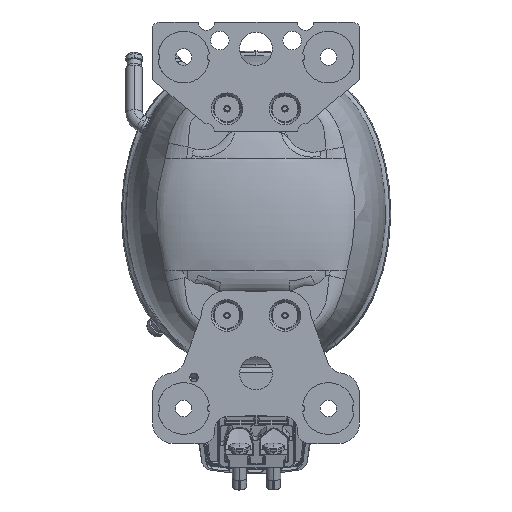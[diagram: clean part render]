
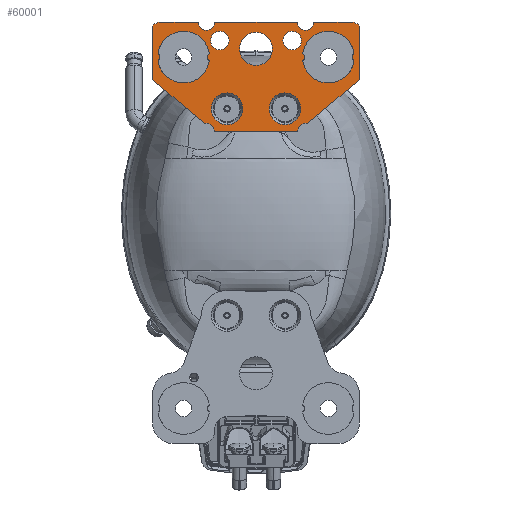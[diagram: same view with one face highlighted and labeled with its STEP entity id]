
A CAD part, front view. The second image highlights one B-rep face of the part: STEP entity #60001.
In plain terms, the highlighted planar face has unit normal (0, -1, 0) as drawn and (0, 0, -1) by its records, which use the part's own axes.
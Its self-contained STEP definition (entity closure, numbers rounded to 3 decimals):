
#59096=CARTESIAN_POINT('',(25.,-14.,0.));
#59097=DIRECTION('',(0.,0.,1.));
#59098=DIRECTION('',(-1.,0.,0.));
#59099=AXIS2_PLACEMENT_3D('',#59096,#59097,#59098);
#59101=CARTESIAN_POINT('',(25.,-14.,0.));
#59102=DIRECTION('',(0.,0.,1.));
#59103=DIRECTION('',(1.,0.,0.));
#59104=AXIS2_PLACEMENT_3D('',#59101,#59102,#59103);
#59106=CARTESIAN_POINT('',(25.,14.,0.));
#59107=DIRECTION('',(0.,0.,1.));
#59108=DIRECTION('',(-1.,0.,0.));
#59109=AXIS2_PLACEMENT_3D('',#59106,#59107,#59108);
#59111=CARTESIAN_POINT('',(25.,14.,0.));
#59112=DIRECTION('',(0.,0.,1.));
#59113=DIRECTION('',(1.,0.,0.));
#59114=AXIS2_PLACEMENT_3D('',#59111,#59112,#59113);
#59116=CARTESIAN_POINT('',(0.,35.,0.));
#59117=DIRECTION('',(0.,0.,-1.));
#59118=DIRECTION('',(1.,0.,0.));
#59119=AXIS2_PLACEMENT_3D('',#59116,#59117,#59118);
#59121=CARTESIAN_POINT('',(0.,35.,0.));
#59122=DIRECTION('',(0.,0.,-1.));
#59123=DIRECTION('',(-1.,0.,0.));
#59124=AXIS2_PLACEMENT_3D('',#59121,#59122,#59123);
#59126=CARTESIAN_POINT('',(0.,-35.,0.));
#59127=DIRECTION('',(0.,0.,-1.));
#59128=DIRECTION('',(1.,0.,0.));
#59129=AXIS2_PLACEMENT_3D('',#59126,#59127,#59128);
#59131=CARTESIAN_POINT('',(0.,-35.,0.));
#59132=DIRECTION('',(0.,0.,-1.));
#59133=DIRECTION('',(-1.,0.,0.));
#59134=AXIS2_PLACEMENT_3D('',#59131,#59132,#59133);
#59136=CARTESIAN_POINT('',(-8.,17.5,0.));
#59137=DIRECTION('',(0.,0.,-1.));
#59138=DIRECTION('',(1.,0.,0.));
#59139=AXIS2_PLACEMENT_3D('',#59136,#59137,#59138);
#59141=CARTESIAN_POINT('',(-8.,17.5,0.));
#59142=DIRECTION('',(0.,0.,-1.));
#59143=DIRECTION('',(-1.,0.,0.));
#59144=AXIS2_PLACEMENT_3D('',#59141,#59142,#59143);
#59146=CARTESIAN_POINT('',(-8.,-17.5,0.));
#59147=DIRECTION('',(0.,0.,-1.));
#59148=DIRECTION('',(1.,0.,0.));
#59149=AXIS2_PLACEMENT_3D('',#59146,#59147,#59148);
#59151=CARTESIAN_POINT('',(-8.,-17.5,0.));
#59152=DIRECTION('',(0.,0.,-1.));
#59153=DIRECTION('',(-1.,0.,0.));
#59154=AXIS2_PLACEMENT_3D('',#59151,#59152,#59153);
#59156=CARTESIAN_POINT('',(-4.,0.,0.));
#59157=DIRECTION('',(0.,0.,-1.));
#59158=DIRECTION('',(1.,0.,0.));
#59159=AXIS2_PLACEMENT_3D('',#59156,#59157,#59158);
#59161=CARTESIAN_POINT('',(-4.,0.,0.));
#59162=DIRECTION('',(0.,0.,-1.));
#59163=DIRECTION('',(-1.,0.,0.));
#59164=AXIS2_PLACEMENT_3D('',#59161,#59162,#59163);
#59166=CARTESIAN_POINT('',(-12.,46.,0.));
#59167=DIRECTION('',(0.,0.,1.));
#59168=DIRECTION('',(-0.6,0.8,0.));
#59169=AXIS2_PLACEMENT_3D('',#59166,#59167,#59168);
#59171=DIRECTION('',(0.,-1.,0.));
#59172=VECTOR('',#59171,18.);
#59173=CARTESIAN_POINT('',(-17.,46.,0.));
#59174=LINE('',#59173,#59172);
#59175=CARTESIAN_POINT('',(-17.,24.,0.));
#59176=DIRECTION('',(0.,0.,-1.));
#59177=DIRECTION('',(0.,1.,0.));
#59178=AXIS2_PLACEMENT_3D('',#59175,#59176,#59177);
#59180=DIRECTION('',(0.,-1.,0.));
#59181=VECTOR('',#59180,40.);
#59182=CARTESIAN_POINT('',(-17.,20.,0.));
#59183=LINE('',#59182,#59181);
#59184=CARTESIAN_POINT('',(-17.,-24.,0.));
#59185=DIRECTION('',(0.,0.,-1.));
#59186=DIRECTION('',(0.,1.,0.));
#59187=AXIS2_PLACEMENT_3D('',#59184,#59185,#59186);
#59189=DIRECTION('',(0.,-1.,0.));
#59190=VECTOR('',#59189,18.);
#59191=CARTESIAN_POINT('',(-17.,-28.,0.));
#59192=LINE('',#59191,#59190);
#59193=CARTESIAN_POINT('',(-12.,-46.,0.));
#59194=DIRECTION('',(0.,0.,1.));
#59195=DIRECTION('',(-1.,0.,0.));
#59196=AXIS2_PLACEMENT_3D('',#59193,#59194,#59195);
#59198=DIRECTION('',(1.,0.,0.));
#59199=VECTOR('',#59198,26.);
#59200=CARTESIAN_POINT('',(-15.,-50.,0.));
#59201=LINE('',#59200,#59199);
#59202=DIRECTION('',(0.643,0.766,0.));
#59203=VECTOR('',#59202,32.766);
#59204=CARTESIAN_POINT('',(11.,-50.,0.));
#59205=LINE('',#59204,#59203);
#59206=CARTESIAN_POINT('',(36.,-24.2,0.));
#59207=DIRECTION('',(0.,0.,-1.));
#59208=DIRECTION('',(-0.985,-0.175,0.));
#59209=AXIS2_PLACEMENT_3D('',#59206,#59207,#59208);
#59211=DIRECTION('',(0.,1.,0.));
#59212=VECTOR('',#59211,40.4);
#59213=CARTESIAN_POINT('',(36.,-20.2,0.));
#59214=LINE('',#59213,#59212);
#59215=CARTESIAN_POINT('',(36.,24.2,0.));
#59216=DIRECTION('',(0.,0.,-1.));
#59217=DIRECTION('',(0.,-1.,0.));
#59218=AXIS2_PLACEMENT_3D('',#59215,#59216,#59217);
#59220=DIRECTION('',(-0.643,0.766,0.));
#59221=VECTOR('',#59220,32.766);
#59222=CARTESIAN_POINT('',(32.062,24.9,0.));
#59223=LINE('',#59222,#59221);
#59224=DIRECTION('',(-1.,0.,0.));
#59225=VECTOR('',#59224,26.);
#59226=CARTESIAN_POINT('',(11.,50.,0.));
#59227=LINE('',#59226,#59225);
#59744=CARTESIAN_POINT('',(8.,35.,0.));
#59745=CARTESIAN_POINT('',(-8.,35.,0.));
#59746=VERTEX_POINT('',#59744);
#59747=VERTEX_POINT('',#59745);
#59748=CARTESIAN_POINT('',(8.,-35.,0.));
#59749=CARTESIAN_POINT('',(-8.,-35.,0.));
#59750=VERTEX_POINT('',#59748);
#59751=VERTEX_POINT('',#59749);
#59752=CARTESIAN_POINT('',(-17.,46.,0.));
#59753=CARTESIAN_POINT('',(-17.,28.,0.));
#59754=VERTEX_POINT('',#59752);
#59755=VERTEX_POINT('',#59753);
#59756=CARTESIAN_POINT('',(-17.,20.,0.));
#59757=VERTEX_POINT('',#59756);
#59758=CARTESIAN_POINT('',(-17.,-20.,0.));
#59759=VERTEX_POINT('',#59758);
#59760=CARTESIAN_POINT('',(-17.,-28.,0.));
#59761=VERTEX_POINT('',#59760);
#59762=CARTESIAN_POINT('',(-17.,-46.,0.));
#59763=VERTEX_POINT('',#59762);
#59764=CARTESIAN_POINT('',(-15.,-50.,0.));
#59765=CARTESIAN_POINT('',(11.,-50.,0.));
#59766=VERTEX_POINT('',#59764);
#59767=VERTEX_POINT('',#59765);
#59768=CARTESIAN_POINT('',(32.062,-24.9,0.));
#59769=VERTEX_POINT('',#59768);
#59770=CARTESIAN_POINT('',(36.,-20.2,0.));
#59771=VERTEX_POINT('',#59770);
#59772=CARTESIAN_POINT('',(36.,20.2,0.));
#59773=VERTEX_POINT('',#59772);
#59774=CARTESIAN_POINT('',(32.062,24.9,0.));
#59775=VERTEX_POINT('',#59774);
#59776=CARTESIAN_POINT('',(11.,50.,0.));
#59777=VERTEX_POINT('',#59776);
#59778=CARTESIAN_POINT('',(-15.,50.,0.));
#59779=VERTEX_POINT('',#59778);
#59824=CARTESIAN_POINT('',(32.655,14.,0.));
#59825=CARTESIAN_POINT('',(17.345,14.,0.));
#59826=VERTEX_POINT('',#59824);
#59827=VERTEX_POINT('',#59825);
#59866=CARTESIAN_POINT('',(32.655,-14.,0.));
#59867=CARTESIAN_POINT('',(17.345,-14.,0.));
#59868=VERTEX_POINT('',#59866);
#59869=VERTEX_POINT('',#59867);
#59900=CARTESIAN_POINT('',(-3.5,17.5,0.));
#59901=CARTESIAN_POINT('',(-12.5,17.5,0.));
#59902=VERTEX_POINT('',#59900);
#59903=VERTEX_POINT('',#59901);
#59904=CARTESIAN_POINT('',(-3.5,-17.5,0.));
#59905=CARTESIAN_POINT('',(-12.5,-17.5,0.));
#59906=VERTEX_POINT('',#59904);
#59907=VERTEX_POINT('',#59905);
#59916=CARTESIAN_POINT('',(4.,0.,0.));
#59917=CARTESIAN_POINT('',(-12.,0.,0.));
#59918=VERTEX_POINT('',#59916);
#59919=VERTEX_POINT('',#59917);
#59924=CARTESIAN_POINT('',(0.,0.,0.));
#59925=DIRECTION('',(0.,0.,1.));
#59926=DIRECTION('',(1.,0.,0.));
#59927=AXIS2_PLACEMENT_3D('',#59924,#59925,#59926);
#59928=PLANE('',#59927);
#59930=ORIENTED_EDGE('',*,*,#59929,.T.);
#59932=ORIENTED_EDGE('',*,*,#59931,.T.);
#59934=ORIENTED_EDGE('',*,*,#59933,.T.);
#59936=ORIENTED_EDGE('',*,*,#59935,.T.);
#59938=ORIENTED_EDGE('',*,*,#59937,.T.);
#59940=ORIENTED_EDGE('',*,*,#59939,.T.);
#59942=ORIENTED_EDGE('',*,*,#59941,.T.);
#59944=ORIENTED_EDGE('',*,*,#59943,.T.);
#59946=ORIENTED_EDGE('',*,*,#59945,.T.);
#59948=ORIENTED_EDGE('',*,*,#59947,.T.);
#59950=ORIENTED_EDGE('',*,*,#59949,.T.);
#59952=ORIENTED_EDGE('',*,*,#59951,.T.);
#59954=ORIENTED_EDGE('',*,*,#59953,.T.);
#59956=ORIENTED_EDGE('',*,*,#59955,.T.);
#59957=EDGE_LOOP('',(#59930,#59932,#59934,#59936,#59938,#59940,#59942,#59944,
#59946,#59948,#59950,#59952,#59954,#59956));
#59958=FACE_OUTER_BOUND('',#59957,.F.);
#59960=ORIENTED_EDGE('',*,*,#59959,.F.);
#59962=ORIENTED_EDGE('',*,*,#59961,.F.);
#59963=EDGE_LOOP('',(#59960,#59962));
#59964=FACE_BOUND('',#59963,.F.);
#59966=ORIENTED_EDGE('',*,*,#59965,.T.);
#59968=ORIENTED_EDGE('',*,*,#59967,.T.);
#59969=EDGE_LOOP('',(#59966,#59968));
#59970=FACE_BOUND('',#59969,.F.);
#59972=ORIENTED_EDGE('',*,*,#59971,.T.);
#59974=ORIENTED_EDGE('',*,*,#59973,.T.);
#59975=EDGE_LOOP('',(#59972,#59974));
#59976=FACE_BOUND('',#59975,.F.);
#59978=ORIENTED_EDGE('',*,*,#59977,.T.);
#59980=ORIENTED_EDGE('',*,*,#59979,.T.);
#59981=EDGE_LOOP('',(#59978,#59980));
#59982=FACE_BOUND('',#59981,.F.);
#59984=ORIENTED_EDGE('',*,*,#59983,.T.);
#59986=ORIENTED_EDGE('',*,*,#59985,.T.);
#59987=EDGE_LOOP('',(#59984,#59986));
#59988=FACE_BOUND('',#59987,.F.);
#59990=ORIENTED_EDGE('',*,*,#59989,.T.);
#59992=ORIENTED_EDGE('',*,*,#59991,.T.);
#59993=EDGE_LOOP('',(#59990,#59992));
#59994=FACE_BOUND('',#59993,.F.);
#59996=ORIENTED_EDGE('',*,*,#59995,.F.);
#59998=ORIENTED_EDGE('',*,*,#59997,.F.);
#59999=EDGE_LOOP('',(#59996,#59998));
#60000=FACE_BOUND('',#59999,.F.);
#59100=CIRCLE('',#59099,7.655);
#59105=CIRCLE('',#59104,7.655);
#59110=CIRCLE('',#59109,7.655);
#59115=CIRCLE('',#59114,7.655);
#59120=CIRCLE('',#59119,8.);
#59125=CIRCLE('',#59124,8.);
#59130=CIRCLE('',#59129,8.);
#59135=CIRCLE('',#59134,8.);
#59140=CIRCLE('',#59139,4.5);
#59145=CIRCLE('',#59144,4.5);
#59150=CIRCLE('',#59149,4.5);
#59155=CIRCLE('',#59154,4.5);
#59160=CIRCLE('',#59159,8.);
#59165=CIRCLE('',#59164,8.);
#59170=CIRCLE('',#59169,5.);
#59179=CIRCLE('',#59178,4.);
#59188=CIRCLE('',#59187,4.);
#59197=CIRCLE('',#59196,5.);
#59210=CIRCLE('',#59209,4.);
#59219=CIRCLE('',#59218,4.);
#59929=EDGE_CURVE('',#59779,#59754,#59170,.T.);
#59931=EDGE_CURVE('',#59754,#59755,#59174,.T.);
#59933=EDGE_CURVE('',#59755,#59757,#59179,.T.);
#59935=EDGE_CURVE('',#59757,#59759,#59183,.T.);
#59937=EDGE_CURVE('',#59759,#59761,#59188,.T.);
#59939=EDGE_CURVE('',#59761,#59763,#59192,.T.);
#59941=EDGE_CURVE('',#59763,#59766,#59197,.T.);
#59943=EDGE_CURVE('',#59766,#59767,#59201,.T.);
#59945=EDGE_CURVE('',#59767,#59769,#59205,.T.);
#59947=EDGE_CURVE('',#59769,#59771,#59210,.T.);
#59949=EDGE_CURVE('',#59771,#59773,#59214,.T.);
#59951=EDGE_CURVE('',#59773,#59775,#59219,.T.);
#59953=EDGE_CURVE('',#59775,#59777,#59223,.T.);
#59955=EDGE_CURVE('',#59777,#59779,#59227,.T.);
#59959=EDGE_CURVE('',#59827,#59826,#59110,.T.);
#59961=EDGE_CURVE('',#59826,#59827,#59115,.T.);
#59965=EDGE_CURVE('',#59746,#59747,#59120,.T.);
#59967=EDGE_CURVE('',#59747,#59746,#59125,.T.);
#59971=EDGE_CURVE('',#59750,#59751,#59130,.T.);
#59973=EDGE_CURVE('',#59751,#59750,#59135,.T.);
#59977=EDGE_CURVE('',#59902,#59903,#59140,.T.);
#59979=EDGE_CURVE('',#59903,#59902,#59145,.T.);
#59983=EDGE_CURVE('',#59906,#59907,#59150,.T.);
#59985=EDGE_CURVE('',#59907,#59906,#59155,.T.);
#59989=EDGE_CURVE('',#59918,#59919,#59160,.T.);
#59991=EDGE_CURVE('',#59919,#59918,#59165,.T.);
#59995=EDGE_CURVE('',#59869,#59868,#59100,.T.);
#59997=EDGE_CURVE('',#59868,#59869,#59105,.T.);
#60001=ADVANCED_FACE('',(#59958,#59964,#59970,#59976,#59982,#59988,#59994,
#60000),#59928,.F.);
